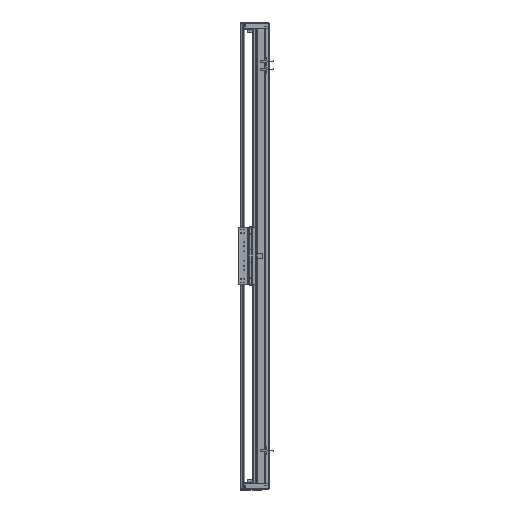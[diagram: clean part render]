
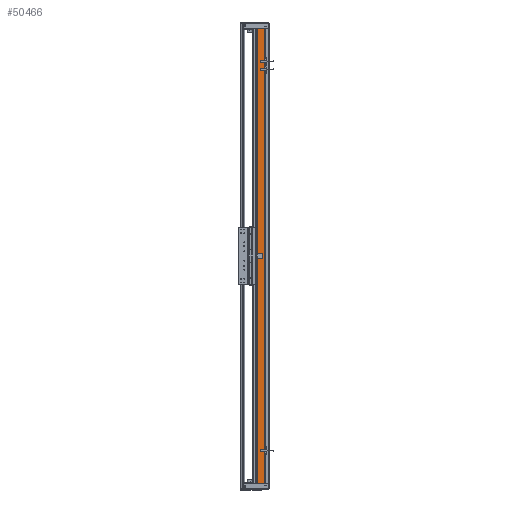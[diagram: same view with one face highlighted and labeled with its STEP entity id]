
A CAD part, left-side view. The second image highlights one B-rep face of the part: STEP entity #50466.
In plain terms, the highlighted planar face has unit normal (-1, 0, 0).
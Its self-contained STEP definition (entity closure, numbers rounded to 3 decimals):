
#6234 = LINE ( 'NONE', #53655, #74310 ) ;
#8114 = CARTESIAN_POINT ( 'NONE',  ( -97.5, 14.45, 750. ) ) ;
#9240 = LINE ( 'NONE', #151655, #88368 ) ;
#20220 = PLANE ( 'NONE',  #127347 ) ;
#24044 = CARTESIAN_POINT ( 'NONE',  ( -97.5, 36.95, 750. ) ) ;
#30088 = ORIENTED_EDGE ( 'NONE', *, *, #85193, .T. ) ;
#31094 = FACE_OUTER_BOUND ( 'NONE', #132468, .T. ) ;
#39498 = VERTEX_POINT ( 'NONE', #89041 ) ;
#39574 = VERTEX_POINT ( 'NONE', #8114 ) ;
#40355 = CARTESIAN_POINT ( 'NONE',  ( -97.5, 36.95, -750. ) ) ;
#41127 = LINE ( 'NONE', #40355, #136363 ) ;
#43523 = DIRECTION ( 'NONE',  ( 1., 0., 0. ) ) ;
#46771 = VECTOR ( 'NONE', #119042, 1000. ) ;
#50466 = ADVANCED_FACE ( 'NONE', ( #31094 ), #20220, .F. ) ;
#53655 = CARTESIAN_POINT ( 'NONE',  ( -97.5, 36.95, 750. ) ) ;
#58207 = DIRECTION ( 'NONE',  ( 0., 0., -1. ) ) ;
#70923 = EDGE_CURVE ( 'NONE', #111443, #39498, #41127, .T. ) ;
#74310 = VECTOR ( 'NONE', #77818, 1000. ) ;
#77818 = DIRECTION ( 'NONE',  ( 0., 0., -1. ) ) ;
#80106 = CARTESIAN_POINT ( 'NONE',  ( -97.5, 36.95, 750. ) ) ;
#85193 = EDGE_CURVE ( 'NONE', #149468, #111443, #6234, .T. ) ;
#88368 = VECTOR ( 'NONE', #58207, 1000. ) ;
#89041 = CARTESIAN_POINT ( 'NONE',  ( -97.5, 14.45, -750. ) ) ;
#99835 = EDGE_CURVE ( 'NONE', #149468, #39574, #140080, .T. ) ;
#111443 = VERTEX_POINT ( 'NONE', #122018 ) ;
#116760 = CARTESIAN_POINT ( 'NONE',  ( -97.5, 36.95, 750. ) ) ;
#119042 = DIRECTION ( 'NONE',  ( 0., -1., 0. ) ) ;
#122018 = CARTESIAN_POINT ( 'NONE',  ( -97.5, 36.95, -750. ) ) ;
#127347 = AXIS2_PLACEMENT_3D ( 'NONE', #80106, #43523, #127550 ) ;
#127550 = DIRECTION ( 'NONE',  ( 0., 1., 0. ) ) ;
#131709 = ORIENTED_EDGE ( 'NONE', *, *, #70923, .T. ) ;
#132217 = ORIENTED_EDGE ( 'NONE', *, *, #99835, .F. ) ;
#132468 = EDGE_LOOP ( 'NONE', ( #131709, #145617, #132217, #30088 ) ) ;
#134969 = EDGE_CURVE ( 'NONE', #39574, #39498, #9240, .T. ) ;
#136049 = DIRECTION ( 'NONE',  ( 0., -1., 0. ) ) ;
#136363 = VECTOR ( 'NONE', #136049, 1000. ) ;
#140080 = LINE ( 'NONE', #116760, #46771 ) ;
#145617 = ORIENTED_EDGE ( 'NONE', *, *, #134969, .F. ) ;
#149468 = VERTEX_POINT ( 'NONE', #24044 ) ;
#151655 = CARTESIAN_POINT ( 'NONE',  ( -97.5, 14.45, 750. ) ) ;
